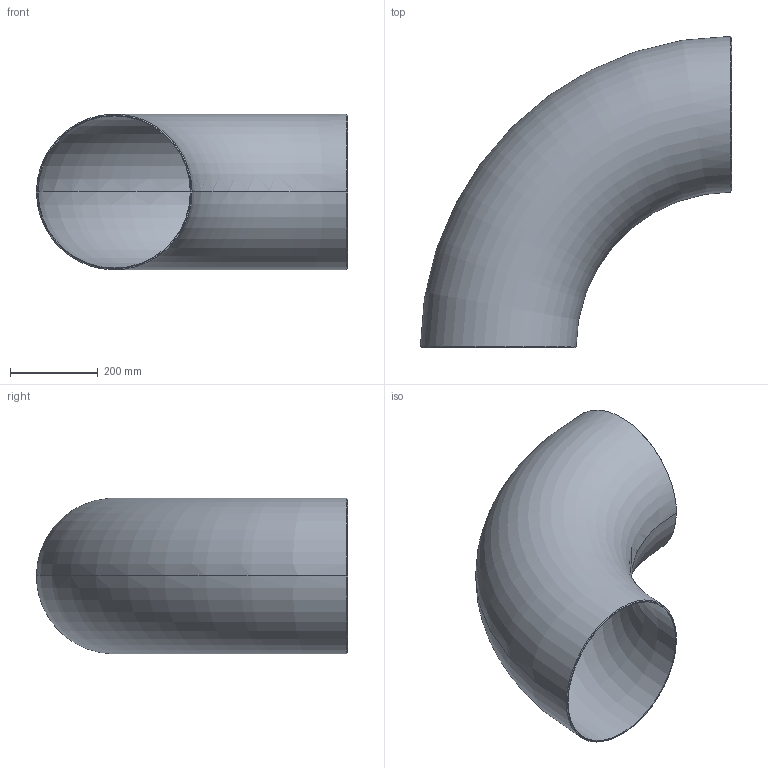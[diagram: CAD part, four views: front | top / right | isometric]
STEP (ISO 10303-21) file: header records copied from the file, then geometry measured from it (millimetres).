
FILE_DESCRIPTION (( 'STEP AP203' ), '1' );
FILE_NAME ('OT200-350-355_6x4_OSTP.step', '2020-12-16T03:09:25', ( '' ), ( '' ), 'SwSTEP 2.0', 'SolidWorks 2014', '' );
FILE_SCHEMA (( 'CONFIG_CONTROL_DESIGN' ));
Length unit declared in the file: millimetre
Products named in the file (1): OT200-350-355_6x4_OSTP
Bounding box: 710.8 x 710.8 x 355.43 mm (x, y, z)
Volume: 3683185.7 mm3; surface area: 1855378.5 mm2
Topology: 1 solids, 1 shells, 10 faces, 20 edges, 12 vertices
Faces by surface type: torus 4, cone 4, plane 2
Entity records: 630 total; most frequent: CARTESIAN_POINT 336, DIRECTION 50, ORIENTED_EDGE 40, AXIS2_PLACEMENT_3D 23, EDGE_CURVE 20, CIRCLE 12, EDGE_LOOP 12, VERTEX_POINT 12
